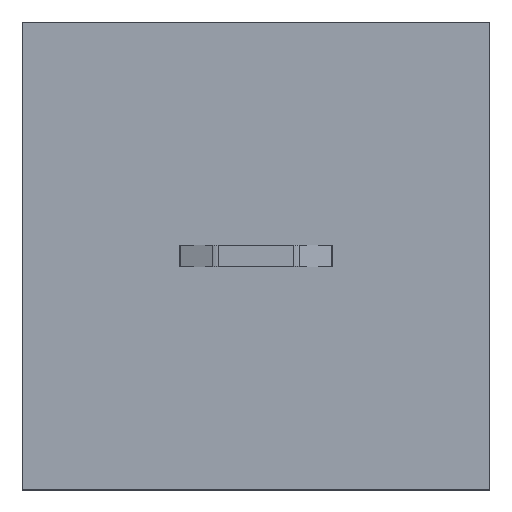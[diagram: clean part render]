
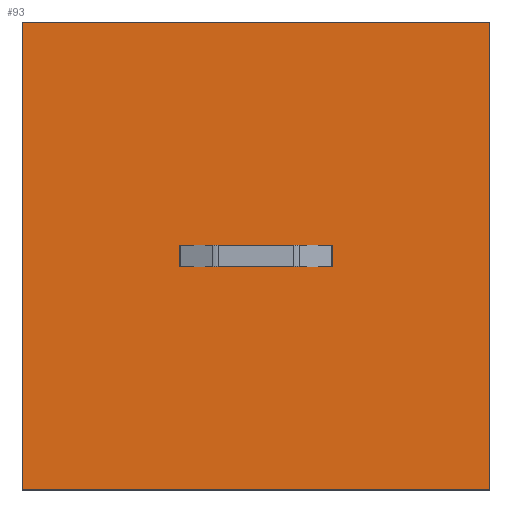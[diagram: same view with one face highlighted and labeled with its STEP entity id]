
A CAD part, top view. The second image highlights one B-rep face of the part: STEP entity #93.
In plain terms, the highlighted planar face has unit normal (0, 0, 1).
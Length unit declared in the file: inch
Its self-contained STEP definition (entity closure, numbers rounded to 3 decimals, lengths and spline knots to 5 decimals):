
#93=ADVANCED_FACE('',(#136,#137),#138,.T.);
#136=FACE_OUTER_BOUND('',#186,.T.);
#137=FACE_BOUND('',#187,.T.);
#138=PLANE('',#188);
#186=EDGE_LOOP('',(#352,#353,#354,#355));
#187=EDGE_LOOP('',(#356,#357,#358,#359,#360,#361,#362,#363));
#188=AXIS2_PLACEMENT_3D('',#364,#365,#366);
#352=ORIENTED_EDGE('',*,*,#466,.T.);
#353=ORIENTED_EDGE('',*,*,#467,.T.);
#354=ORIENTED_EDGE('',*,*,#468,.T.);
#355=ORIENTED_EDGE('',*,*,#415,.F.);
#356=ORIENTED_EDGE('',*,*,#457,.T.);
#357=ORIENTED_EDGE('',*,*,#418,.F.);
#358=ORIENTED_EDGE('',*,*,#413,.F.);
#359=ORIENTED_EDGE('',*,*,#426,.F.);
#360=ORIENTED_EDGE('',*,*,#446,.F.);
#361=ORIENTED_EDGE('',*,*,#464,.T.);
#362=ORIENTED_EDGE('',*,*,#469,.T.);
#363=ORIENTED_EDGE('',*,*,#465,.T.);
#364=CARTESIAN_POINT('',(3.02452,0.5,0.45182));
#365=DIRECTION('',(0.0,0.0,1.0));
#366=DIRECTION('',(1.0,0.0,0.0));
#413=EDGE_CURVE('',#485,#477,#487,.T.);
#415=EDGE_CURVE('',#488,#491,#492,.T.);
#418=EDGE_CURVE('',#477,#496,#497,.T.);
#426=EDGE_CURVE('',#510,#485,#512,.T.);
#446=EDGE_CURVE('',#543,#510,#545,.T.);
#457=EDGE_CURVE('',#561,#496,#562,.T.);
#464=EDGE_CURVE('',#543,#535,#572,.T.);
#465=EDGE_CURVE('',#569,#561,#573,.T.);
#466=EDGE_CURVE('',#488,#574,#575,.T.);
#467=EDGE_CURVE('',#574,#576,#577,.T.);
#468=EDGE_CURVE('',#576,#491,#578,.T.);
#469=EDGE_CURVE('',#535,#569,#579,.T.);
#477=VERTEX_POINT('',#589);
#485=VERTEX_POINT('',#599);
#487=LINE('',#602,#603);
#488=VERTEX_POINT('',#604);
#491=VERTEX_POINT('',#608);
#492=LINE('',#609,#610);
#496=VERTEX_POINT('',#616);
#497=LINE('',#617,#618);
#510=VERTEX_POINT('',#634);
#512=LINE('',#636,#637);
#535=VERTEX_POINT('',#669);
#543=VERTEX_POINT('',#681);
#545=LINE('',#683,#684);
#561=VERTEX_POINT('',#708);
#562=LINE('',#709,#710);
#569=VERTEX_POINT('',#719);
#572=LINE('',#724,#725);
#573=LINE('',#726,#727);
#574=VERTEX_POINT('',#728);
#575=LINE('',#729,#730);
#576=VERTEX_POINT('',#731);
#577=LINE('',#732,#733);
#578=LINE('',#734,#735);
#579=LINE('',#736,#737);
#589=CARTESIAN_POINT('',(3.21452,-0.09,0.45182));
#599=CARTESIAN_POINT('',(2.83452,-0.09,0.45182));
#602=CARTESIAN_POINT('',(3.02452,-0.09,0.45182));
#603=VECTOR('',#761,1.0);
#604=CARTESIAN_POINT('',(4.02452,-1.045,0.45182));
#608=CARTESIAN_POINT('',(2.02452,-1.045,0.45182));
#609=CARTESIAN_POINT('',(3.02452,-1.045,0.45182));
#610=VECTOR('',#763,1.0);
#616=CARTESIAN_POINT('',(3.35203,-0.09,0.45182));
#617=CARTESIAN_POINT('',(3.14228,-0.09,0.45182));
#618=VECTOR('',#766,1.0);
#634=CARTESIAN_POINT('',(2.697,-0.09,0.45182));
#636=CARTESIAN_POINT('',(3.14228,-0.09,0.45182));
#637=VECTOR('',#782,1.0);
#669=CARTESIAN_POINT('',(2.83452,0.0,0.45182));
#681=CARTESIAN_POINT('',(2.697,0.0,0.45182));
#683=CARTESIAN_POINT('',(2.697,0.0,0.45182));
#684=VECTOR('',#814,1.0);
#708=CARTESIAN_POINT('',(3.35203,0.0,0.45182));
#709=CARTESIAN_POINT('',(3.35203,0.0,0.45182));
#710=VECTOR('',#829,1.0);
#719=CARTESIAN_POINT('',(3.21452,0.0,0.45182));
#724=CARTESIAN_POINT('',(3.02452,0.0,0.45182));
#725=VECTOR('',#840,1.0);
#726=CARTESIAN_POINT('',(3.02452,0.0,0.45182));
#727=VECTOR('',#841,1.0);
#728=CARTESIAN_POINT('',(4.02452,0.955,0.45182));
#729=CARTESIAN_POINT('',(4.02452,0.5,0.45182));
#730=VECTOR('',#842,1.0);
#731=CARTESIAN_POINT('',(2.02452,0.955,0.45182));
#732=CARTESIAN_POINT('',(3.02452,0.955,0.45182));
#733=VECTOR('',#843,1.0);
#734=CARTESIAN_POINT('',(2.02452,0.5,0.45182));
#735=VECTOR('',#844,1.0);
#736=CARTESIAN_POINT('',(3.02452,0.0,0.45182));
#737=VECTOR('',#845,1.0);
#761=DIRECTION('',(1.0,0.0,0.0));
#763=DIRECTION('',(-1.0,0.0,0.0));
#766=DIRECTION('',(1.0,0.0,0.0));
#782=DIRECTION('',(1.0,0.0,0.0));
#814=DIRECTION('',(0.0,-1.0,0.0));
#829=DIRECTION('',(0.0,-1.0,0.0));
#840=DIRECTION('',(1.0,0.0,0.0));
#841=DIRECTION('',(1.0,0.0,0.0));
#842=DIRECTION('',(0.0,1.0,0.0));
#843=DIRECTION('',(-1.0,0.0,0.0));
#844=DIRECTION('',(0.0,-1.0,0.0));
#845=DIRECTION('',(1.0,0.0,0.0));
